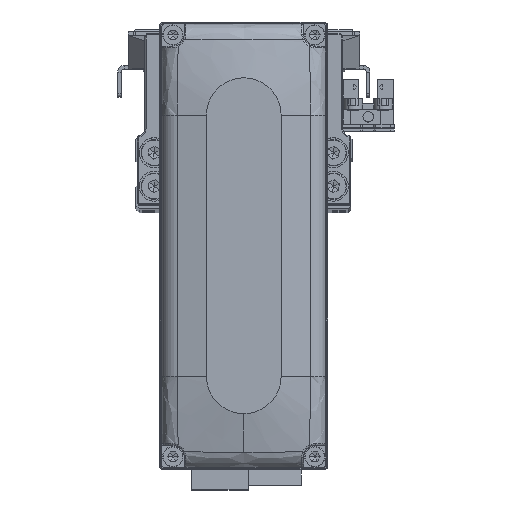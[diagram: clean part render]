
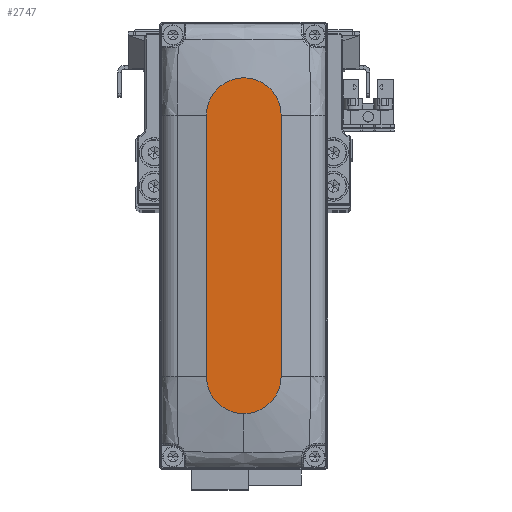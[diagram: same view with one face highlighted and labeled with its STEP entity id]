
A CAD part, top view. The second image highlights one B-rep face of the part: STEP entity #2747.
In plain terms, the highlighted planar face has unit normal (0, 0, 1).
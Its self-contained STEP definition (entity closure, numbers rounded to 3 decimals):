
#864 = VERTEX_POINT ( 'NONE', #15904 ) ;
#981 = EDGE_CURVE ( 'NONE', #6138, #30897, #40113, .T. ) ;
#1234 = CARTESIAN_POINT ( 'NONE',  ( -35., 10., 28. ) ) ;
#1721 = AXIS2_PLACEMENT_3D ( 'NONE', #16015, #29444, #42833 ) ;
#2747 = ADVANCED_FACE ( 'NONE', ( #15688 ), #29111, .T. ) ;
#5098 = ORIENTED_EDGE ( 'NONE', *, *, #16618, .T. ) ;
#6138 = VERTEX_POINT ( 'NONE', #40387 ) ;
#7473 = VECTOR ( 'NONE', #41454, 1000. ) ;
#7913 = AXIS2_PLACEMENT_3D ( 'NONE', #28584, #41990, #11871 ) ;
#8848 = EDGE_CURVE ( 'NONE', #30897, #16707, #20685, .T. ) ;
#9980 = CARTESIAN_POINT ( 'NONE',  ( -35., 10., 28. ) ) ;
#10681 = DIRECTION ( 'NONE',  ( 0., 0., 1. ) ) ;
#11871 = DIRECTION ( 'NONE',  ( 1., 0., 0. ) ) ;
#12080 = EDGE_CURVE ( 'NONE', #16707, #864, #14026, .T. ) ;
#12388 = DIRECTION ( 'NONE',  ( 0., 0., 1. ) ) ;
#14026 = LINE ( 'NONE', #27470, #7473 ) ;
#14174 = EDGE_CURVE ( 'NONE', #864, #26343, #23314, .T. ) ;
#15613 = CARTESIAN_POINT ( 'NONE',  ( 45., 0., 28. ) ) ;
#15688 = FACE_OUTER_BOUND ( 'NONE', #38371, .T. ) ;
#15904 = CARTESIAN_POINT ( 'NONE',  ( 35., -10., 28. ) ) ;
#16015 = CARTESIAN_POINT ( 'NONE',  ( -35., 0., 28. ) ) ;
#16618 = EDGE_CURVE ( 'NONE', #26343, #6138, #26908, .T. ) ;
#16707 = VERTEX_POINT ( 'NONE', #39124 ) ;
#20685 = CIRCLE ( 'NONE', #1721, 10. ) ;
#23314 = CIRCLE ( 'NONE', #28936, 10. ) ;
#23389 = DIRECTION ( 'NONE',  ( -1., 0., 0. ) ) ;
#24097 = DIRECTION ( 'NONE',  ( 1., 0., 0. ) ) ;
#25841 = DIRECTION ( 'NONE',  ( 1., 0., 0. ) ) ;
#26343 = VERTEX_POINT ( 'NONE', #15613 ) ;
#26908 = CIRCLE ( 'NONE', #7913, 10. ) ;
#27470 = CARTESIAN_POINT ( 'NONE',  ( -35., -10., 28. ) ) ;
#28584 = CARTESIAN_POINT ( 'NONE',  ( 35., 0., 28. ) ) ;
#28598 = AXIS2_PLACEMENT_3D ( 'NONE', #42502, #12388, #25841 ) ;
#28936 = AXIS2_PLACEMENT_3D ( 'NONE', #40815, #10681, #24097 ) ;
#29111 = PLANE ( 'NONE',  #28598 ) ;
#29444 = DIRECTION ( 'NONE',  ( 0., 0., 1. ) ) ;
#29550 = ORIENTED_EDGE ( 'NONE', *, *, #12080, .T. ) ;
#30499 = ORIENTED_EDGE ( 'NONE', *, *, #8848, .T. ) ;
#30897 = VERTEX_POINT ( 'NONE', #1234 ) ;
#36268 = ORIENTED_EDGE ( 'NONE', *, *, #981, .T. ) ;
#37009 = ORIENTED_EDGE ( 'NONE', *, *, #14174, .T. ) ;
#38371 = EDGE_LOOP ( 'NONE', ( #36268, #30499, #29550, #37009, #5098 ) ) ;
#39124 = CARTESIAN_POINT ( 'NONE',  ( -35., -10., 28. ) ) ;
#40113 = LINE ( 'NONE', #9980, #42521 ) ;
#40387 = CARTESIAN_POINT ( 'NONE',  ( 35., 10., 28. ) ) ;
#40815 = CARTESIAN_POINT ( 'NONE',  ( 35., 0., 28. ) ) ;
#41454 = DIRECTION ( 'NONE',  ( 1., 0., 0. ) ) ;
#41990 = DIRECTION ( 'NONE',  ( 0., 0., 1. ) ) ;
#42502 = CARTESIAN_POINT ( 'NONE',  ( 0., 0., 28. ) ) ;
#42521 = VECTOR ( 'NONE', #23389, 1000. ) ;
#42833 = DIRECTION ( 'NONE',  ( 1., 0., 0. ) ) ;
